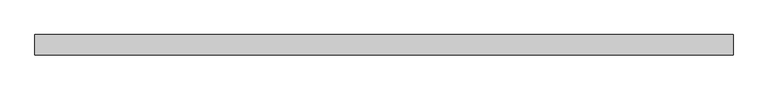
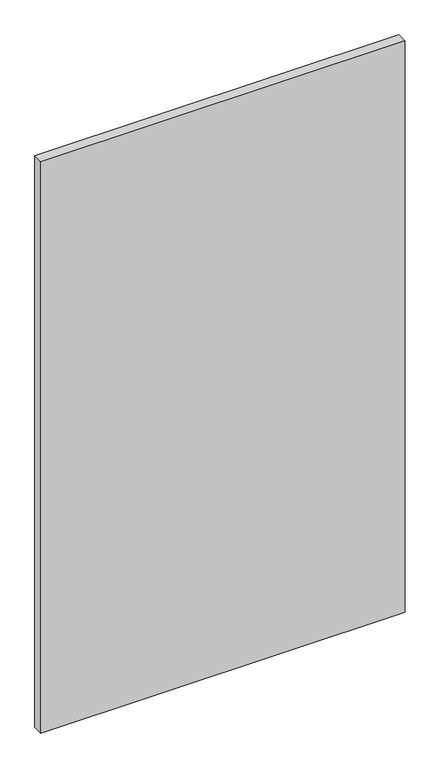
"""IFC4 building model written with IfcOpenShell, lengths in millimetres: plate geometry, Vitré."""

from ifc_helpers import new_model, si_unit, origin, origin_with_axes, place, context, project, spatial, polyline, outline, extrude, source, transform, mapped, element, save


def plate_0b297c83(model_context):
    return source(origin(), model_context, "Body", "SweptSolid", [
        extrude(outline(polyline([(-691.3125, -20.0), (-691.3125, 20.0), (691.3125, 20.0), (691.3125, -20.0), (-691.3125, -20.0)])), origin_with_axes(), (0.0, 0.0, 1.0), 2292.625),
    ])


if __name__ == "__main__":
    model = new_model("IFC4")
    model_context = context("Model", 3, world=origin())
    ifc_project = project(units=[si_unit("LENGTHUNIT", "METRE", prefix="MILLI")], contexts=[model_context])
    site = spatial("IfcSite", under=ifc_project)
    building = spatial("IfcBuilding", under=site)
    placement = place(None, origin())
    plate_shape = plate_0b297c83(model_context)
    element("IfcPlate", 1, ObjectType="Vitré", at=placement, inside=building, context=model_context, shape_type="MappedRepresentation", body=[
        mapped(plate_shape, transform((0.0, 0.0, 0.0), x_axis=(1.0, 0.0, 0.0), y_axis=(0.0, 1.0, 0.0), z_axis=(0.0, 0.0, 1.0))),
    ])
    save(model, "model.ifc")
